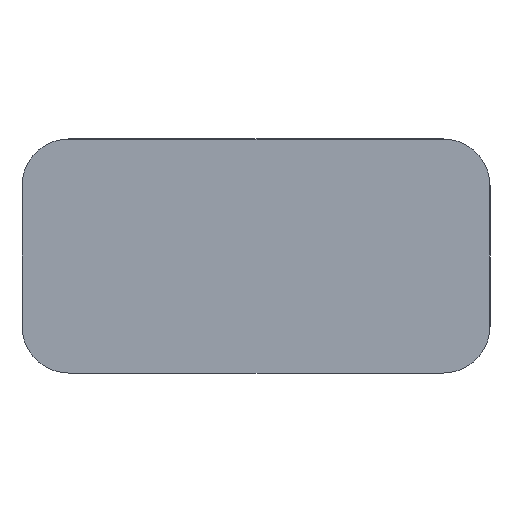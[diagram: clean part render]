
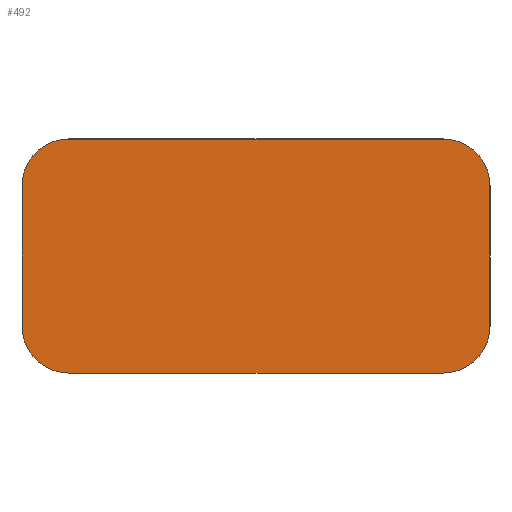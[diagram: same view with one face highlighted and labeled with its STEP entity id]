
A CAD part, left-side view. The second image highlights one B-rep face of the part: STEP entity #492.
In plain terms, the highlighted planar face has unit normal (-1, 0, 0).
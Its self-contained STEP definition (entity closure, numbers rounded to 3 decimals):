
#117=CARTESIAN_POINT('',(29.,64.,-0.4));
#118=DIRECTION('',(-1.,0.,0.));
#119=DIRECTION('',(0.,0.,1.));
#120=AXIS2_PLACEMENT_3D('',#117,#118,#119);
#130=CARTESIAN_POINT('',(29.,56.,-0.4));
#131=DIRECTION('',(-1.,0.,0.));
#132=DIRECTION('',(0.,-1.,0.));
#133=AXIS2_PLACEMENT_3D('',#130,#131,#132);
#143=CARTESIAN_POINT('',(29.,56.,-3.4));
#144=DIRECTION('',(-1.,0.,0.));
#145=DIRECTION('',(0.,0.,-1.));
#146=AXIS2_PLACEMENT_3D('',#143,#144,#145);
#156=CARTESIAN_POINT('',(29.,64.,-3.4));
#157=DIRECTION('',(-1.,0.,0.));
#158=DIRECTION('',(0.,1.,0.));
#159=AXIS2_PLACEMENT_3D('',#156,#157,#158);
#165=DIRECTION('',(0.,0.,-1.));
#166=VECTOR('',#165,3.);
#167=CARTESIAN_POINT('',(29.,65.,-0.4));
#168=LINE('',#167,#166);
#169=DIRECTION('',(0.,1.,0.));
#170=VECTOR('',#169,8.);
#171=CARTESIAN_POINT('',(29.,56.,0.6));
#172=LINE('',#171,#170);
#173=DIRECTION('',(0.,0.,1.));
#174=VECTOR('',#173,3.);
#175=CARTESIAN_POINT('',(29.,55.,-3.4));
#176=LINE('',#175,#174);
#177=DIRECTION('',(0.,-1.,0.));
#178=VECTOR('',#177,8.);
#179=CARTESIAN_POINT('',(29.,64.,-4.4));
#180=LINE('',#179,#178);
#181=CARTESIAN_POINT('',(29.,65.,-3.4));
#182=CARTESIAN_POINT('',(29.,64.,-4.4));
#183=VERTEX_POINT('',#181);
#184=VERTEX_POINT('',#182);
#185=CARTESIAN_POINT('',(29.,64.,0.6));
#186=CARTESIAN_POINT('',(29.,65.,-0.4));
#187=VERTEX_POINT('',#185);
#188=VERTEX_POINT('',#186);
#189=CARTESIAN_POINT('',(29.,56.,-4.4));
#190=CARTESIAN_POINT('',(29.,55.,-3.4));
#191=VERTEX_POINT('',#189);
#192=VERTEX_POINT('',#190);
#193=CARTESIAN_POINT('',(29.,55.,-0.4));
#194=CARTESIAN_POINT('',(29.,56.,0.6));
#195=VERTEX_POINT('',#193);
#196=VERTEX_POINT('',#194);
#477=CARTESIAN_POINT('',(29.,0.,
0.));
#478=DIRECTION('',(-1.,0.,0.));
#479=DIRECTION('',(0.,0.,1.));
#480=AXIS2_PLACEMENT_3D('',#477,#478,#479);
#481=PLANE('',#480);
#482=ORIENTED_EDGE('',*,*,#471,.F.);
#483=ORIENTED_EDGE('',*,*,#373,.F.);
#484=ORIENTED_EDGE('',*,*,#388,.F.);
#485=ORIENTED_EDGE('',*,*,#402,.F.);
#486=ORIENTED_EDGE('',*,*,#416,.F.);
#487=ORIENTED_EDGE('',*,*,#430,.F.);
#488=ORIENTED_EDGE('',*,*,#444,.F.);
#489=ORIENTED_EDGE('',*,*,#458,.F.);
#490=EDGE_LOOP('',(#482,#483,#484,#485,#486,#487,#488,#489));
#491=FACE_OUTER_BOUND('',#490,.F.);
#492=ADVANCED_FACE('',(#491),#481,.T.);
#121=CIRCLE('',#120,1.);
#134=CIRCLE('',#133,1.);
#147=CIRCLE('',#146,1.);
#160=CIRCLE('',#159,1.);
#373=EDGE_CURVE('',#188,#183,#168,.T.);
#388=EDGE_CURVE('',#187,#188,#121,.T.);
#402=EDGE_CURVE('',#196,#187,#172,.T.);
#416=EDGE_CURVE('',#195,#196,#134,.T.);
#430=EDGE_CURVE('',#192,#195,#176,.T.);
#444=EDGE_CURVE('',#191,#192,#147,.T.);
#458=EDGE_CURVE('',#184,#191,#180,.T.);
#471=EDGE_CURVE('',#183,#184,#160,.T.);
